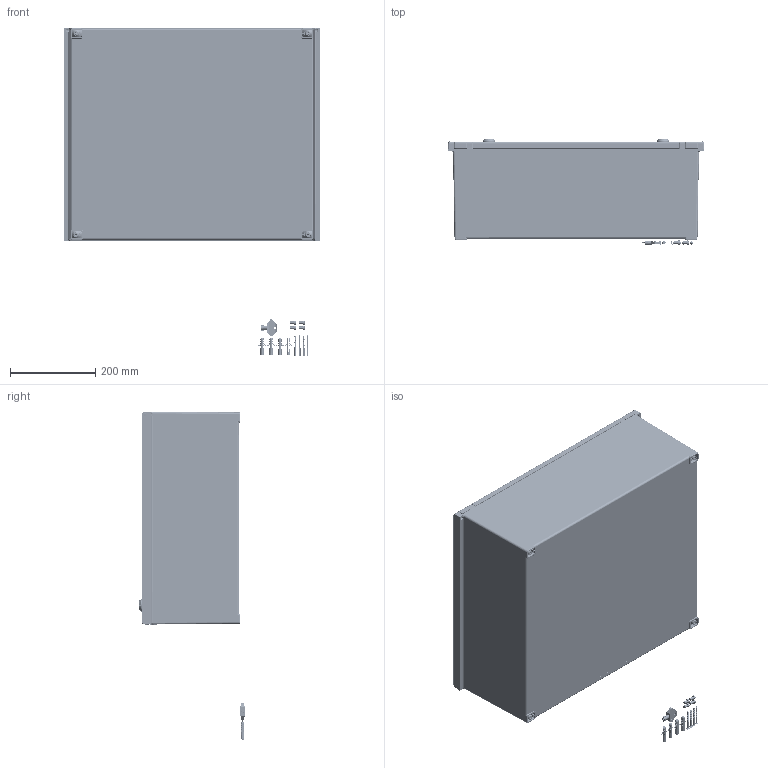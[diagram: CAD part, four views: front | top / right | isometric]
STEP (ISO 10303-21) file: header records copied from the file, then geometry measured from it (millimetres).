
FILE_DESCRIPTION(/* description */ (''),/* implementation_level */ '2;1');
FILE_NAME(/* name */ 'C:\Users\ahermoni\Desktop\42165200_PS 652.stp',/* time_stamp */ '2019-09-12T13:15:24+02:00',/* author */ ('ahermoni'),/* organization */ ('Fa. Bopla'),/* preprocessor_version */ 'ST-DEVELOPER v17.2',/* originating_system */ 'Autodesk Inventor 2019',/* authorisation */ '');
FILE_SCHEMA (('AUTOMOTIVE_DESIGN { 1 0 10303 214 3 1 1 }'));
Products named in the file (17): Polysafe PS 652; Unterteil 1; Oberteil; Tür 1; Scheibe; Schloss; Mutter; Halter; Schraube4; Rahmen; Zubehör; Schraube2; Dübel; Schlüssel; Schraube1; Achse; Gewindeeinsatz M6x8
Assembly tree (36 placements, depth 3):
  Polysafe PS 652
    Unterteil 1
    Oberteil
      Tür 1
      Scheibe  x2
      Schloss  x2
      Mutter  x2
      Halter  x2
      Schraube4  x2
      Rahmen
    Zubehör
      Schraube2  x4
      Dübel  x4
      Schlüssel
      Schraube1  x4
    Achse  x2
    Gewindeeinsatz M6x8  x6
Bounding box: 600 x 249.24 x 771.91 mm (x, y, z)
Volume: 4047474.5 mm3; surface area: 2590074.6 mm2
Topology: 42 solids, 56 shells, 7950 faces, 19480 edges, 11899 vertices
Faces by surface type: cylinder 2889, bspline 2074, plane 1951, cone 508, sphere 273, torus 255
Full cylindrical faces by diameter (mm): 2 x2, 2.62 x56, 3 x30, 3.7 x2, 4 x8, 4.2 x4, 4.5 x6, 4.8 x2, 5 x8, 5.4 x4, 6 x13, 6.55 x4, 7 x4, 7.3 x18, 8 x4, 8.5 x2, 9 x1, 10 x12, 10.2 x2, 12 x6, 14 x2, 14.2 x2, 18.5 x2, 19.8 x2, 21 x2, 22 x4, 23 x2, 27 x2, 29 x4
Entity records: 362883 total; most frequent: CARTESIAN_POINT 220238, ORIENTED_EDGE 30439, DIRECTION 28751, EDGE_CURVE 15225, AXIS2_PLACEMENT_3D 11223, VERTEX_POINT 9339, EDGE_LOOP 7070, FACE_OUTER_BOUND 6474
